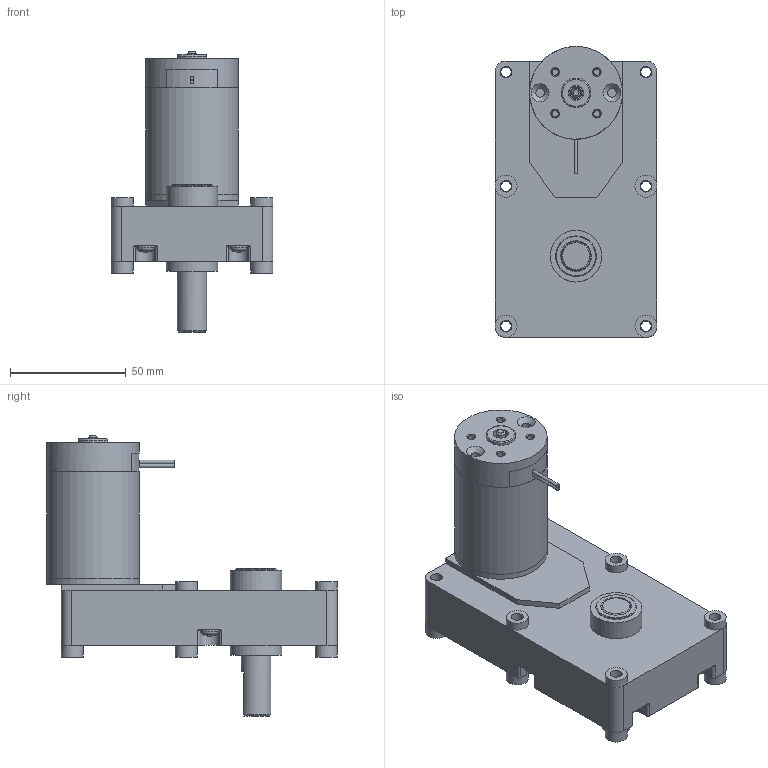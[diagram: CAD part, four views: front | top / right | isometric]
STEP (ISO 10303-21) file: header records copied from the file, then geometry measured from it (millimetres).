
FILE_DESCRIPTION((''),'2;1');
FILE_NAME('D:\업무 관련\2. DC\홈페이지 링크용 도면\3D\SG\SG44BL.stp','2015-04-04T09:18:13',('leejy'),(''),'Autodesk Inventor 2013','Autodesk Inventor 2013','');
FILE_SCHEMA(('AUTOMOTIVE_DESIGN { 1 0 10303 214 1 1 1 1 }'));
Length unit declared in the file: millimetre
Products named in the file (9): SG44BL; SG2 SERIES BOX; RM44ㅁBL; RM4TYPE_FRONT_HOUSING_; RM44TYPE_SHAFT; RM4TYPE_PIPE_HOUSING_pi40XL45.9; REAR_HOUSING__ASS'Y_LEAD; RM4TYPE_BRUSH_BRAKET_LEAD; RM4TYPE_REAR_HOUSING
Assembly tree (7 placements, depth 3):
  SG44BL
    SG2 SERIES BOX
    RM44ㅁBL
      RM4TYPE_FRONT_HOUSING_
      RM44TYPE_SHAFT
      RM4TYPE_PIPE_HOUSING_pi40XL45.9
  REAR_HOUSING__ASS'Y_LEAD
    RM4TYPE_BRUSH_BRAKET_LEAD
    RM4TYPE_REAR_HOUSING
Bounding box: 69.85 x 125.41 x 120.78 mm (x, y, z)
Volume: 122202.7 mm3; surface area: 75656.9 mm2
Topology: 8 solids, 8 shells, 447 faces, 1160 edges, 749 vertices
Faces by surface type: plane 171, cylinder 123, cone 95, torus 52, sphere 6
Full cylindrical faces by diameter (mm): 1.6 x2, 2.7 x4, 2.8 x4, 3.571 x6, 3.7 x2, 3.969 x1, 4 x7, 4.3 x6, 4.4 x6, 4.45 x1, 5 x1, 5.05 x6, 6 x1, 6.5 x1, 6.65 x1, 9.4 x1, 9.5 x9, 12.7 x5, 17.5 x4, 20.3 x1, 22.3 x2, 36.5 x1, 40 x3
Entity records: 13805 total; most frequent: CARTESIAN_POINT 3392, DIRECTION 2117, ORIENTED_EDGE 1928, EDGE_CURVE 964, AXIS2_PLACEMENT_3D 907, VERTEX_POINT 688, EDGE_LOOP 654, FACE_OUTER_BOUND 447
